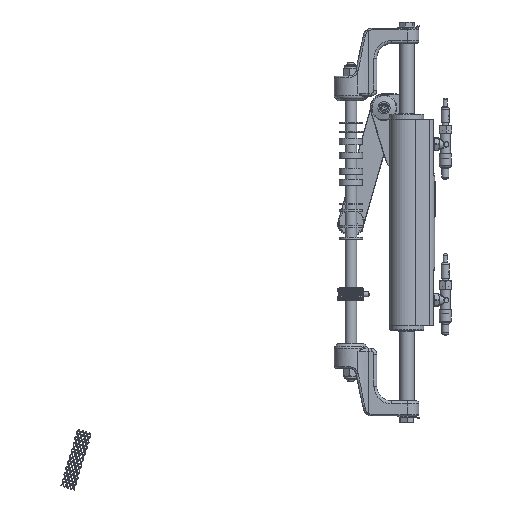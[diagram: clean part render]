
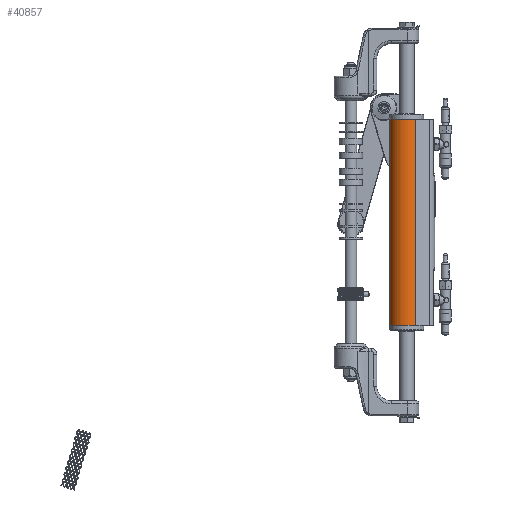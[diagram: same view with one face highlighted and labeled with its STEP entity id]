
A CAD part, front view. The second image highlights one B-rep face of the part: STEP entity #40857.
In plain terms, the highlighted cylindrical face has radius 23 mm (diameter 46 mm), a partial arc.
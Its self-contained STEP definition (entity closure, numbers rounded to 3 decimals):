
#3430=CYLINDRICAL_SURFACE('',#46178,23.);
#7085=FACE_OUTER_BOUND('',#9681,.T.);
#9681=EDGE_LOOP('',(#36239,#36240,#36241,#36242));
#11980=LINE('',#81351,#14198);
#11994=LINE('',#81417,#14212);
#14198=VECTOR('',#56169,10.);
#14212=VECTOR('',#56245,10.);
#15833=CIRCLE('',#46118,23.);
#15839=CIRCLE('',#46137,23.);
#19622=VERTEX_POINT('',#81279);
#19623=VERTEX_POINT('',#81281);
#19627=VERTEX_POINT('',#81311);
#19628=VERTEX_POINT('',#81313);
#25280=EDGE_CURVE('',#19622,#19623,#15833,.T.);
#25294=EDGE_CURVE('',#19628,#19627,#15839,.T.);
#25305=EDGE_CURVE('',#19627,#19623,#11980,.T.);
#25336=EDGE_CURVE('',#19622,#19628,#11994,.T.);
#36239=ORIENTED_EDGE('',*,*,#25305,.T.);
#36240=ORIENTED_EDGE('',*,*,#25280,.F.);
#36241=ORIENTED_EDGE('',*,*,#25336,.T.);
#36242=ORIENTED_EDGE('',*,*,#25294,.T.);
#40857=ADVANCED_FACE('',(#7085),#3430,.T.);
#46118=AXIS2_PLACEMENT_3D('',#81282,#56104,#56105);
#46137=AXIS2_PLACEMENT_3D('',#81314,#56150,#56151);
#46178=AXIS2_PLACEMENT_3D('',#81430,#56254,#56255);
#56104=DIRECTION('center_axis',(0.,0.,-1.));
#56105=DIRECTION('ref_axis',(1.,0.,0.));
#56150=DIRECTION('center_axis',(0.,0.,-1.));
#56151=DIRECTION('ref_axis',(1.,0.,0.));
#56169=DIRECTION('',(0.,0.,-1.));
#56245=DIRECTION('',(0.,0.,1.));
#56254=DIRECTION('center_axis',(0.,0.,1.));
#56255=DIRECTION('ref_axis',(0.53,0.848,0.));
#81279=CARTESIAN_POINT('',(23.,0.,-140.1));
#81281=CARTESIAN_POINT('',(-12.188,-19.505,-140.1));
#81282=CARTESIAN_POINT('Origin',(0.,0.,-140.1));
#81311=CARTESIAN_POINT('',(-12.188,-19.505,140.1));
#81313=CARTESIAN_POINT('',(23.,0.,140.1));
#81314=CARTESIAN_POINT('Origin',(0.,0.,140.1));
#81351=CARTESIAN_POINT('',(-12.188,-19.505,0.));
#81417=CARTESIAN_POINT('',(23.,0.,0.));
#81430=CARTESIAN_POINT('Origin',(0.,0.,0.));
